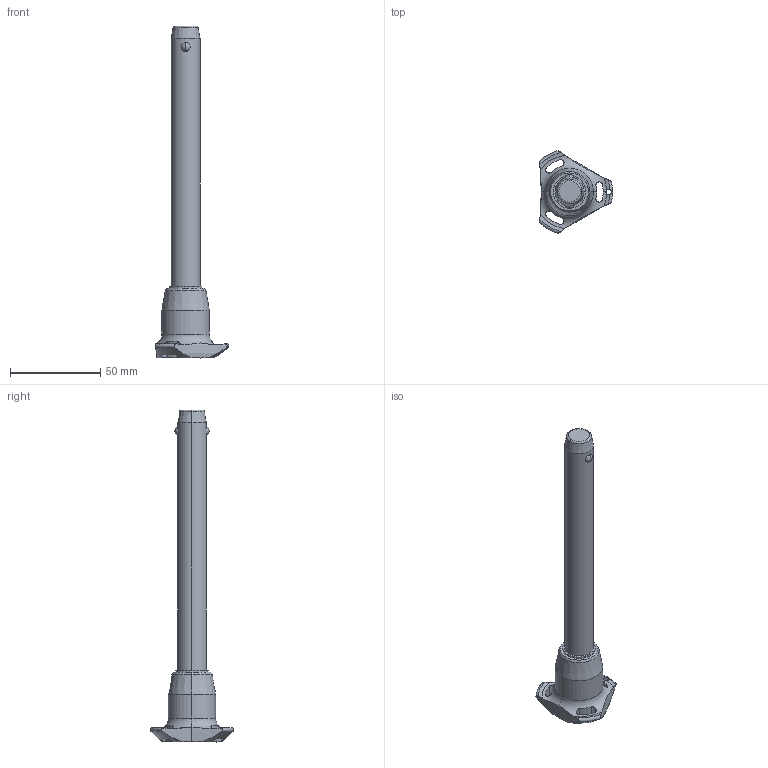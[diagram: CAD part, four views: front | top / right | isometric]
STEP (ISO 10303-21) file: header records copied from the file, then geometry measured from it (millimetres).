
FILE_DESCRIPTION (( 'STEP AP203' ), '1' );
FILE_NAME ('QR1714.M16-130-S.step', '2025-11-12T10:24:41', ( '' ), ( '' ), 'SwSTEP 2.0', 'SolidWorks 2019', '' );
FILE_SCHEMA (( 'CONFIG_CONTROL_DESIGN' ));
Length unit declared in the file: millimetre
Products named in the file (1): QR1714.M16-130-S
Bounding box: 40.5 x 45.88 x 183.7 mm (x, y, z)
Volume: 51234.7 mm3; surface area: 13193 mm2
Topology: 1 solids, 1 shells, 65 faces, 178 edges, 113 vertices
Faces by surface type: cylinder 30, cone 14, torus 11, sphere 6, plane 4
Entity records: 2870 total; most frequent: CARTESIAN_POINT 1181, ORIENTED_EDGE 356, DIRECTION 329, EDGE_CURVE 178, AXIS2_PLACEMENT_3D 147, VERTEX_POINT 113, CIRCLE 81, EDGE_LOOP 71
